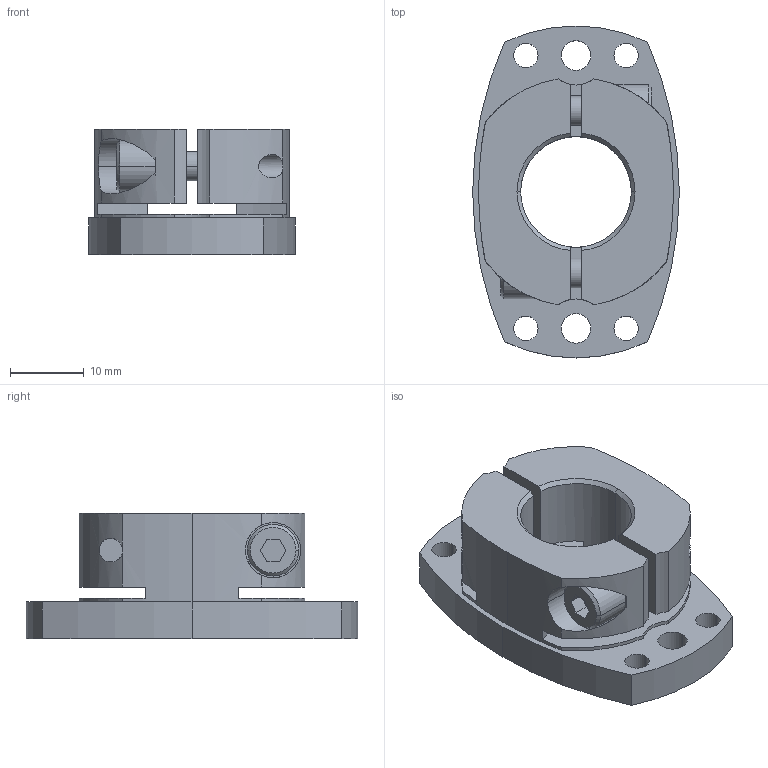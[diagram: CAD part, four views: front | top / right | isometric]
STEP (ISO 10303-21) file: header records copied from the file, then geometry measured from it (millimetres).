
FILE_DESCRIPTION((''),'2;1');
FILE_NAME('SHDB-45B-15.stp','2026-01-27T12:43:04',(''),(''),'AutoCAD STEP 2000i','AutoCAD 2000i',', , ');
FILE_SCHEMA(('CONFIG_CONTROL_DESIGN'));
Length unit declared in the file: millimetre
Products named in the file (2): SHDB-45B-15; 忣兜1
Assembly tree (1 placements, depth 2):
  SHDB-45B-15
    忣兜1
Bounding box: 28 x 45 x 17 mm (x, y, z)
Volume: 9444.5 mm3; surface area: 5878.1 mm2
Topology: 1 solids, 1 shells, 102 faces, 280 edges, 184 vertices
Faces by surface type: cylinder 58, plane 34, cone 10
Entity records: 3677 total; most frequent: CARTESIAN_POINT 850, DIRECTION 602, ORIENTED_EDGE 560, EDGE_CURVE 280, AXIS2_PLACEMENT_3D 238, VERTEX_POINT 184, CIRCLE 134, VECTOR 126
